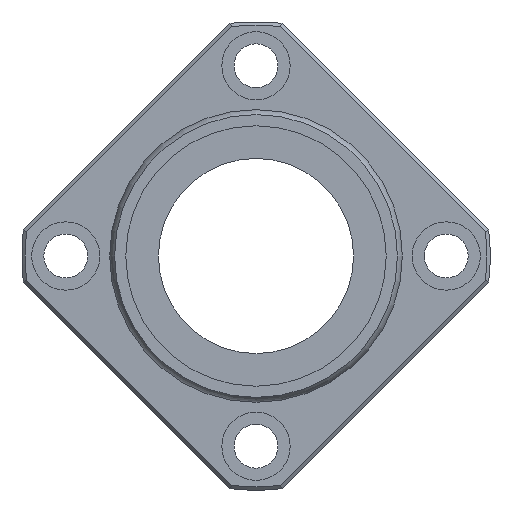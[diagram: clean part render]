
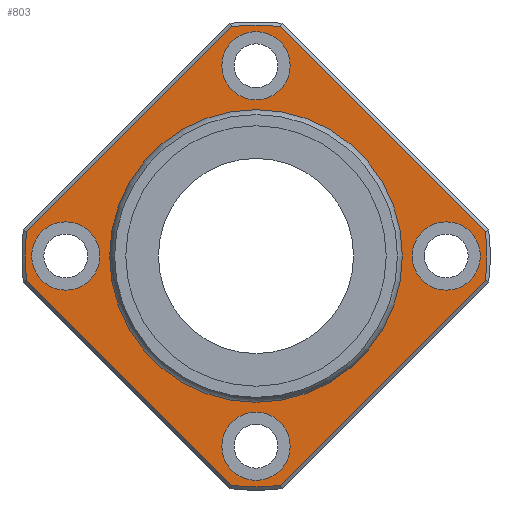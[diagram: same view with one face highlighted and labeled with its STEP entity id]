
A CAD part, left-side view. The second image highlights one B-rep face of the part: STEP entity #803.
In plain terms, the highlighted planar face has unit normal (-1, 0, 0).
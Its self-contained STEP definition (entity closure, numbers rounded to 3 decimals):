
#498=CARTESIAN_POINT('',(70.0,-5.009,-47.034));
#499=VERTEX_POINT('',#498);
#507=CARTESIAN_POINT('',(70.0,5.009,-47.034));
#508=VERTEX_POINT('',#507);
#509=CARTESIAN_POINT('',(70.0,0.0,0.0));
#510=DIRECTION('',(1.0,0.0,0.0));
#511=DIRECTION('',(0.0,0.0,-1.0));
#512=AXIS2_PLACEMENT_3D('',#509,#510,#511);
#513=CIRCLE('',#512,47.3);
#514=EDGE_CURVE('',#499,#508,#513,.T.);
#540=CARTESIAN_POINT('',(70.0,47.034,-5.009));
#541=VERTEX_POINT('',#540);
#542=CARTESIAN_POINT('',(70.0,5.009,-47.034));
#543=DIRECTION('',(0.0,0.707,0.707));
#544=VECTOR('',#543,59.432);
#545=LINE('',#542,#544);
#546=EDGE_CURVE('',#508,#541,#545,.T.);
#573=CARTESIAN_POINT('',(70.0,47.034,5.009));
#574=VERTEX_POINT('',#573);
#575=CARTESIAN_POINT('',(70.0,0.0,0.0));
#576=DIRECTION('',(1.0,0.0,0.0));
#577=DIRECTION('',(0.0,0.0,1.0));
#578=AXIS2_PLACEMENT_3D('',#575,#576,#577);
#579=CIRCLE('',#578,47.3);
#580=EDGE_CURVE('',#541,#574,#579,.T.);
#604=CARTESIAN_POINT('',(70.0,5.009,47.034));
#605=VERTEX_POINT('',#604);
#606=CARTESIAN_POINT('',(70.0,47.034,5.009));
#607=DIRECTION('',(0.0,-0.707,0.707));
#608=VECTOR('',#607,59.432);
#609=LINE('',#606,#608);
#610=EDGE_CURVE('',#574,#605,#609,.T.);
#629=CARTESIAN_POINT('',(70.0,-5.009,47.034));
#630=VERTEX_POINT('',#629);
#631=CARTESIAN_POINT('',(70.0,0.0,0.0));
#632=DIRECTION('',(1.0,0.0,0.0));
#633=DIRECTION('',(0.0,0.0,1.0));
#634=AXIS2_PLACEMENT_3D('',#631,#632,#633);
#635=CIRCLE('',#634,47.3);
#636=EDGE_CURVE('',#605,#630,#635,.T.);
#655=CARTESIAN_POINT('',(70.0,-47.034,5.009));
#656=VERTEX_POINT('',#655);
#657=CARTESIAN_POINT('',(70.0,-5.009,47.034));
#658=DIRECTION('',(0.0,-0.707,-0.707));
#659=VECTOR('',#658,59.432);
#660=LINE('',#657,#659);
#661=EDGE_CURVE('',#630,#656,#660,.T.);
#680=CARTESIAN_POINT('',(70.0,-47.034,-5.009));
#681=VERTEX_POINT('',#680);
#682=CARTESIAN_POINT('',(70.0,0.0,0.0));
#683=DIRECTION('',(1.0,0.0,0.0));
#684=DIRECTION('',(0.0,0.0,1.0));
#685=AXIS2_PLACEMENT_3D('',#682,#683,#684);
#686=CIRCLE('',#685,47.3);
#687=EDGE_CURVE('',#656,#681,#686,.T.);
#706=CARTESIAN_POINT('',(70.0,-47.034,-5.009));
#707=DIRECTION('',(0.0,0.707,-0.707));
#708=VECTOR('',#707,59.432);
#709=LINE('',#706,#708);
#710=EDGE_CURVE('',#681,#499,#709,.T.);
#733=CARTESIAN_POINT('',(70.0,0.0,38.834));
#734=DIRECTION('',(-1.0,0.0,0.0));
#735=DIRECTION('',(0.0,0.0,1.0));
#736=AXIS2_PLACEMENT_3D('',#733,#734,#735);
#737=PLANE('',#736);
#738=ORIENTED_EDGE('',*,*,#514,.F.);
#739=ORIENTED_EDGE('',*,*,#710,.F.);
#740=ORIENTED_EDGE('',*,*,#687,.F.);
#741=ORIENTED_EDGE('',*,*,#661,.F.);
#742=ORIENTED_EDGE('',*,*,#636,.F.);
#743=ORIENTED_EDGE('',*,*,#610,.F.);
#744=ORIENTED_EDGE('',*,*,#580,.F.);
#745=ORIENTED_EDGE('',*,*,#546,.F.);
#746=EDGE_LOOP('',(#738,#739,#740,#741,#742,#743,#744,#745));
#747=FACE_OUTER_BOUND('',#746,.T.);
#748=CARTESIAN_POINT('',(70.,0.0,29.668));
#749=VERTEX_POINT('',#748);
#750=CARTESIAN_POINT('',(70.0,0.0,0.0));
#751=DIRECTION('',(-1.0,0.0,0.0));
#752=DIRECTION('',(0.0,0.0,1.0));
#753=AXIS2_PLACEMENT_3D('',#750,#751,#752);
#754=CIRCLE('',#753,29.668);
#755=EDGE_CURVE('',#749,#749,#754,.T.);
#756=ORIENTED_EDGE('',*,*,#755,.F.);
#757=EDGE_LOOP('',(#756));
#758=FACE_BOUND('',#757,.T.);
#759=CARTESIAN_POINT('',(70.0,-32.0,0.));
#760=VERTEX_POINT('',#759);
#761=CARTESIAN_POINT('',(70.0,-39.0,0.));
#762=DIRECTION('',(1.0,0.0,0.0));
#763=DIRECTION('',(0.0,1.0,0.0));
#764=AXIS2_PLACEMENT_3D('',#761,#762,#763);
#765=CIRCLE('',#764,7.);
#766=EDGE_CURVE('',#760,#760,#765,.T.);
#767=ORIENTED_EDGE('',*,*,#766,.T.);
#768=EDGE_LOOP('',(#767));
#769=FACE_BOUND('',#768,.T.);
#770=CARTESIAN_POINT('',(70.0,46.,0.));
#771=VERTEX_POINT('',#770);
#772=CARTESIAN_POINT('',(70.0,39.0,0.));
#773=DIRECTION('',(1.0,0.0,0.0));
#774=DIRECTION('',(0.0,1.0,0.0));
#775=AXIS2_PLACEMENT_3D('',#772,#773,#774);
#776=CIRCLE('',#775,7.);
#777=EDGE_CURVE('',#771,#771,#776,.T.);
#778=ORIENTED_EDGE('',*,*,#777,.T.);
#779=EDGE_LOOP('',(#778));
#780=FACE_BOUND('',#779,.T.);
#781=CARTESIAN_POINT('',(70.0,7.,39.0));
#782=VERTEX_POINT('',#781);
#783=CARTESIAN_POINT('',(70.0,0.,39.0));
#784=DIRECTION('',(1.0,0.0,0.0));
#785=DIRECTION('',(0.0,1.0,0.0));
#786=AXIS2_PLACEMENT_3D('',#783,#784,#785);
#787=CIRCLE('',#786,7.);
#788=EDGE_CURVE('',#782,#782,#787,.T.);
#789=ORIENTED_EDGE('',*,*,#788,.T.);
#790=EDGE_LOOP('',(#789));
#791=FACE_BOUND('',#790,.T.);
#792=CARTESIAN_POINT('',(70.0,7.,-39.0));
#793=VERTEX_POINT('',#792);
#794=CARTESIAN_POINT('',(70.0,0.,-39.0));
#795=DIRECTION('',(1.0,0.0,0.0));
#796=DIRECTION('',(0.0,1.0,0.0));
#797=AXIS2_PLACEMENT_3D('',#794,#795,#796);
#798=CIRCLE('',#797,7.);
#799=EDGE_CURVE('',#793,#793,#798,.T.);
#800=ORIENTED_EDGE('',*,*,#799,.T.);
#801=EDGE_LOOP('',(#800));
#802=FACE_BOUND('',#801,.T.);
#803=ADVANCED_FACE('',(#747,#758,#769,#780,#791,#802),#737,.T.);
